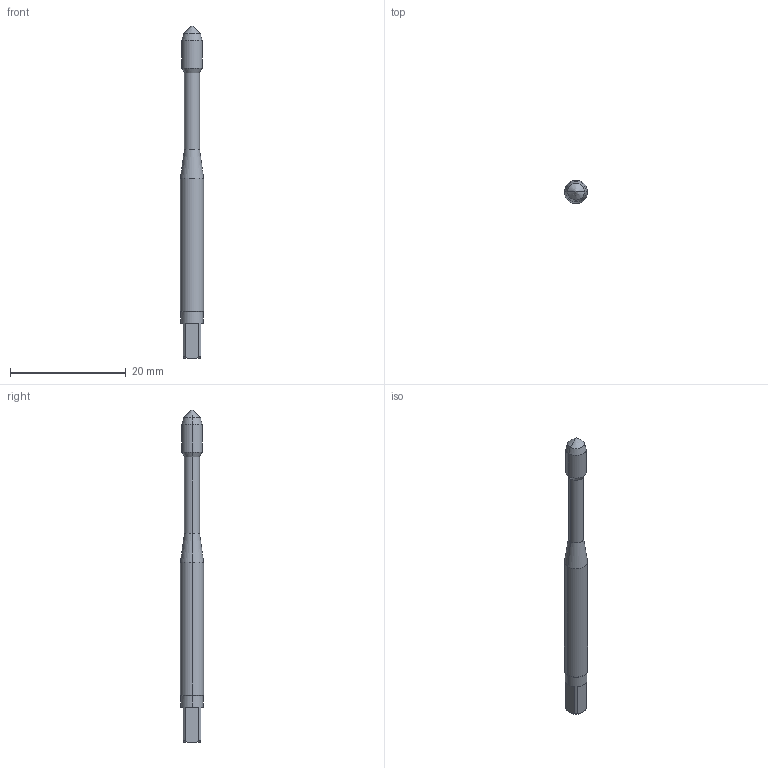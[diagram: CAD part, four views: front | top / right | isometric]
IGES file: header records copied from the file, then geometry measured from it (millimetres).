
Start section: 3D InterOp IGES (v. 2020 1.0.1), Spatial Corp. Copyright (c) 1999-2017.
Global section: file name: WZG341217_3.5.igs; native system: Spatial Corp.; preprocessor: 3D InterOp GENERIC/IGES 3.0; author: Noname; organization: Noname; date: 20210125.100201; units: metre
Bounding box: 4 x 4 x 57.3 mm (x, y, z)
Surface area: 634.7 mm2 (no closed solid volume)
Topology: 0 solids, 0 shells, 31 faces, 146 edges, 144 vertices
Faces by surface type: revolution 22, extrusion 9
